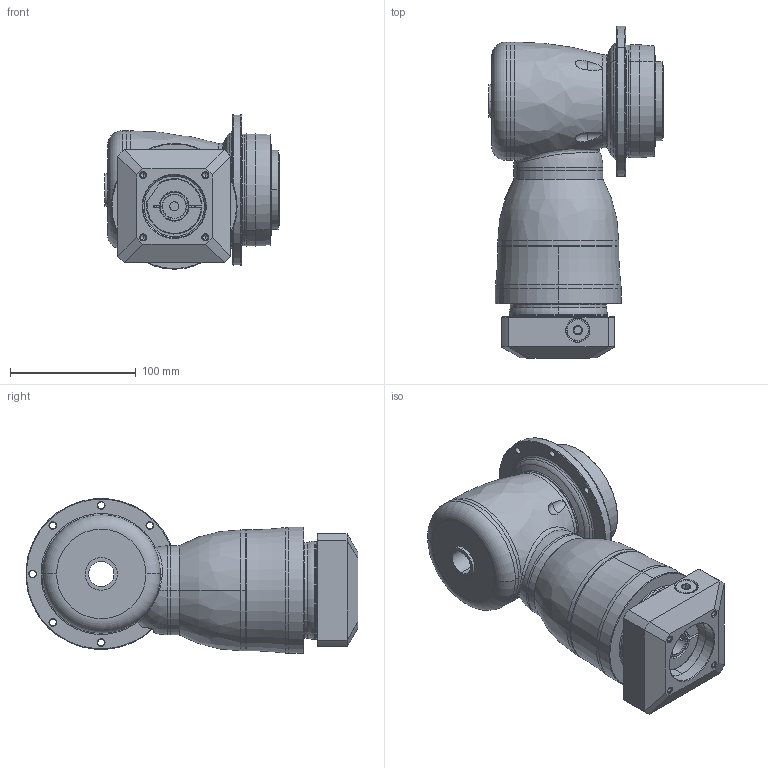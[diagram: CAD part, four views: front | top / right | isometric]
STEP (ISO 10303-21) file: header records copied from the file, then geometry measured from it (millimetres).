
FILE_DESCRIPTION((''),'2;1');
FILE_NAME('KH090_2ST_19-P0409400101_ASM','2016-06-16T',('d01943'),(''),'PRO/ENGINEER BY PARAMETRIC TECHNOLOGY CORPORATION, 2008410','PRO/ENGINEER BY PARAMETRIC TECHNOLOGY CORPORATION, 2008410','');
FILE_SCHEMA(('CONFIG_CONTROL_DESIGN'));
Length unit declared in the file: millimetre
Products named in the file (11): P1008300002_AF1; P1816300001_AF1; P1817300001_AF1; P1315300001_AF1; P1007300001; P1317300301; P0409400101; P0503400006; P0912203001; 21711412017; KH090_2ST_19-P0409400101_ASM
Assembly tree (10 placements, depth 2):
  KH090_2ST_19-P0409400101_ASM
    P1008300002_AF1
    P1816300001_AF1
    P1817300001_AF1
    P1315300001_AF1
    P1007300001
    P1317300301
    P0409400101
    P0503400006
    P0912203001
    21711412017
Bounding box: 138.8 x 263.77 x 122.77 mm (x, y, z)
Volume: 1723690.4 mm3; surface area: 240593.9 mm2
Topology: 11 solids, 11 shells, 535 faces, 1207 edges, 710 vertices
Faces by surface type: cylinder 191, cone 142, plane 94, torus 70, bspline 36, sphere 2
Entity records: 21440 total; most frequent: CARTESIAN_POINT 9333, DIRECTION 2698, ORIENTED_EDGE 2324, EDGE_CURVE 1162, AXIS2_PLACEMENT_3D 1152, VERTEX_POINT 703, CIRCLE 632, EDGE_LOOP 625
